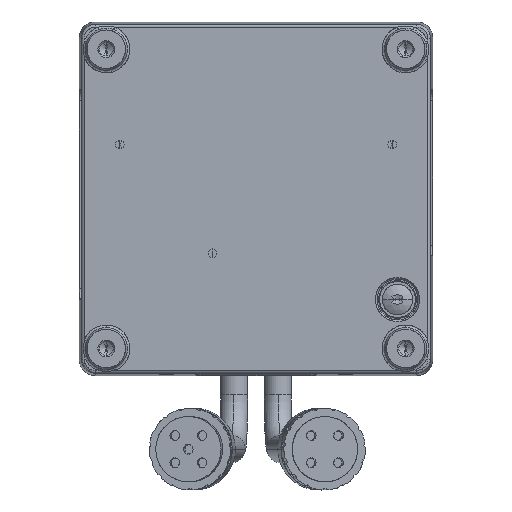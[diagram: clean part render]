
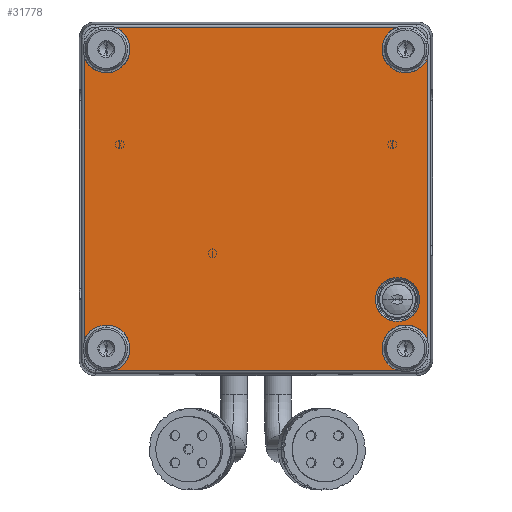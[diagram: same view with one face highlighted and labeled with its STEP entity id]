
A CAD part, front view. The second image highlights one B-rep face of the part: STEP entity #31778.
In plain terms, the highlighted planar face has unit normal (0, -1, 0).
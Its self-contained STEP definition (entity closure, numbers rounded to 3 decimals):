
#1825=PLANE('',#94680);
#2122=FACE_BOUND('',#37641,.T.);
#2123=FACE_BOUND('',#37642,.T.);
#5062=B_SPLINE_CURVE_WITH_KNOTS('',3,(#159282,#159283,#159284,#159285,#159286,
#159287,#159288,#159289,#159290,#159291),.UNSPECIFIED.,.F.,.F.,(4,2,2,2,
4),(0.,0.25,0.5,0.75,1.),.UNSPECIFIED.);
#5063=B_SPLINE_CURVE_WITH_KNOTS('',3,(#159294,#159295,#159296,#159297,#159298,
#159299,#159300,#159301,#159302,#159303),.UNSPECIFIED.,.F.,.F.,(4,2,2,2,
4),(0.,0.25,0.5,0.75,1.),.UNSPECIFIED.);
#5064=B_SPLINE_CURVE_WITH_KNOTS('',3,(#159304,#159305,#159306,#159307,#159308,
#159309,#159310,#159311,#159312,#159313),.UNSPECIFIED.,.F.,.F.,(4,2,2,2,
4),(0.,0.25,0.5,0.75,1.),.UNSPECIFIED.);
#5065=B_SPLINE_CURVE_WITH_KNOTS('',3,(#159316,#159317,#159318,#159319),
 .UNSPECIFIED.,.F.,.F.,(4,4),(0.,1.),.UNSPECIFIED.);
#5066=B_SPLINE_CURVE_WITH_KNOTS('',3,(#159323,#159324,#159325,#159326,#159327,
#159328,#159329,#159330,#159331,#159332),.UNSPECIFIED.,.F.,.F.,(4,2,2,2,
4),(0.,0.25,0.5,0.75,1.),.UNSPECIFIED.);
#5067=B_SPLINE_CURVE_WITH_KNOTS('',3,(#159336,#159337,#159338,#159339,#159340,
#159341,#159342,#159343,#159344,#159345),.UNSPECIFIED.,.F.,.F.,(4,2,2,2,
4),(0.,0.25,0.5,0.75,1.),.UNSPECIFIED.);
#5068=B_SPLINE_CURVE_WITH_KNOTS('',3,(#159349,#159350,#159351,#159352),
 .UNSPECIFIED.,.F.,.F.,(4,4),(0.,1.),.UNSPECIFIED.);
#5069=B_SPLINE_CURVE_WITH_KNOTS('',3,(#159354,#159355,#159356,#159357,#159358,
#159359,#159360,#159361,#159362,#159363),.UNSPECIFIED.,.F.,.F.,(4,2,2,2,
4),(0.,0.25,0.5,0.75,1.),.UNSPECIFIED.);
#31778=ADVANCED_FACE('',(#2122,#2123),#1825,.T.);
#37641=EDGE_LOOP('',(#58772,#58773));
#37642=EDGE_LOOP('',(#58774,#58775,#58776,#58777,#58778,#58779,#58780,#58781,
#58782,#58783));
#42549=LINE('',#159321,#48154);
#42550=LINE('',#159334,#48155);
#42551=LINE('',#159347,#48156);
#42552=LINE('',#159365,#48157);
#48154=VECTOR('',#108101,1.);
#48155=VECTOR('',#108102,1.);
#48156=VECTOR('',#108103,1.);
#48157=VECTOR('',#108104,1.);
#58772=ORIENTED_EDGE('',*,*,#84282,.T.);
#58773=ORIENTED_EDGE('',*,*,#84283,.T.);
#58774=ORIENTED_EDGE('',*,*,#84284,.T.);
#58775=ORIENTED_EDGE('',*,*,#84285,.T.);
#58776=ORIENTED_EDGE('',*,*,#84286,.T.);
#58777=ORIENTED_EDGE('',*,*,#84287,.T.);
#58778=ORIENTED_EDGE('',*,*,#84288,.T.);
#58779=ORIENTED_EDGE('',*,*,#84289,.T.);
#58780=ORIENTED_EDGE('',*,*,#84290,.T.);
#58781=ORIENTED_EDGE('',*,*,#84291,.T.);
#58782=ORIENTED_EDGE('',*,*,#84292,.T.);
#58783=ORIENTED_EDGE('',*,*,#84293,.T.);
#71528=VERTEX_POINT('',#159292);
#71529=VERTEX_POINT('',#159293);
#71530=VERTEX_POINT('',#159314);
#71531=VERTEX_POINT('',#159315);
#71532=VERTEX_POINT('',#159320);
#71533=VERTEX_POINT('',#159322);
#71534=VERTEX_POINT('',#159333);
#71535=VERTEX_POINT('',#159335);
#71536=VERTEX_POINT('',#159346);
#71537=VERTEX_POINT('',#159348);
#71538=VERTEX_POINT('',#159353);
#71539=VERTEX_POINT('',#159364);
#84282=EDGE_CURVE('',#71528,#71529,#5062,.T.);
#84283=EDGE_CURVE('',#71529,#71528,#5063,.T.);
#84284=EDGE_CURVE('',#71530,#71531,#5064,.T.);
#84285=EDGE_CURVE('',#71531,#71532,#5065,.T.);
#84286=EDGE_CURVE('',#71532,#71533,#42549,.T.);
#84287=EDGE_CURVE('',#71533,#71534,#5066,.T.);
#84288=EDGE_CURVE('',#71534,#71535,#42550,.T.);
#84289=EDGE_CURVE('',#71535,#71536,#5067,.T.);
#84290=EDGE_CURVE('',#71536,#71537,#42551,.T.);
#84291=EDGE_CURVE('',#71537,#71538,#5068,.T.);
#84292=EDGE_CURVE('',#71538,#71539,#5069,.T.);
#84293=EDGE_CURVE('',#71539,#71530,#42552,.T.);
#94680=AXIS2_PLACEMENT_3D('',#159366,#108105,#108106);
#108101=DIRECTION('',(0.,0.,1.));
#108102=DIRECTION('',(-1.,0.,0.));
#108103=DIRECTION('',(0.,0.,-1.));
#108104=DIRECTION('',(1.,0.,0.));
#108105=DIRECTION('',(0.,-1.,0.));
#108106=DIRECTION('',(1.,0.,0.));
#159282=CARTESIAN_POINT('',(26.,0.,-22.55));
#159283=CARTESIAN_POINT('',(24.883,0.,-22.55));
#159284=CARTESIAN_POINT('',(23.926,0.,-22.153));
#159285=CARTESIAN_POINT('',(22.347,0.,-20.574));
#159286=CARTESIAN_POINT('',(21.95,0.,-19.616));
#159287=CARTESIAN_POINT('',(21.95,0.,-17.384));
#159288=CARTESIAN_POINT('',(22.347,0.,-16.426));
#159289=CARTESIAN_POINT('',(23.925,0.,-14.847));
#159290=CARTESIAN_POINT('',(24.88,0.,-14.45));
#159291=CARTESIAN_POINT('',(26.,0.,-14.45));
#159292=CARTESIAN_POINT('',(26.,0.,-22.55));
#159293=CARTESIAN_POINT('',(26.,0.,-14.45));
#159294=CARTESIAN_POINT('',(26.,0.,-14.45));
#159295=CARTESIAN_POINT('',(27.117,0.,-14.45));
#159296=CARTESIAN_POINT('',(28.074,0.,-14.847));
#159297=CARTESIAN_POINT('',(29.653,0.,-16.426));
#159298=CARTESIAN_POINT('',(30.05,0.,-17.384));
#159299=CARTESIAN_POINT('',(30.05,0.,-19.616));
#159300=CARTESIAN_POINT('',(29.653,0.,-20.574));
#159301=CARTESIAN_POINT('',(28.075,0.,-22.153));
#159302=CARTESIAN_POINT('',(27.12,0.,-22.55));
#159303=CARTESIAN_POINT('',(26.,0.,-22.55));
#159304=CARTESIAN_POINT('',(26.014,0.,-31.555));
#159305=CARTESIAN_POINT('',(25.032,0.,-31.195));
#159306=CARTESIAN_POINT('',(24.278,0.,-30.559));
#159307=CARTESIAN_POINT('',(23.235,0.,-28.747));
#159308=CARTESIAN_POINT('',(23.065,0.,-27.774));
#159309=CARTESIAN_POINT('',(23.43,0.,-25.716));
#159310=CARTESIAN_POINT('',(23.925,0.,-24.862));
#159311=CARTESIAN_POINT('',(25.527,0.,-23.518));
#159312=CARTESIAN_POINT('',(26.452,0.,-23.181));
#159313=CARTESIAN_POINT('',(27.5,0.,-23.181));
#159314=CARTESIAN_POINT('',(26.014,0.,-31.555));
#159315=CARTESIAN_POINT('',(27.5,0.,-23.181));
#159316=CARTESIAN_POINT('',(27.5,0.,-23.181));
#159317=CARTESIAN_POINT('',(29.309,0.,-23.181));
#159318=CARTESIAN_POINT('',(30.93,0.,-24.31));
#159319=CARTESIAN_POINT('',(31.555,0.,-26.014));
#159320=CARTESIAN_POINT('',(31.555,0.,-26.014));
#159321=CARTESIAN_POINT('',(31.555,0.,0.));
#159322=CARTESIAN_POINT('',(31.555,0.,26.014));
#159323=CARTESIAN_POINT('',(31.555,0.,26.014));
#159324=CARTESIAN_POINT('',(31.013,0.,24.536));
#159325=CARTESIAN_POINT('',(29.969,0.,23.622));
#159326=CARTESIAN_POINT('',(26.892,0.,22.943));
#159327=CARTESIAN_POINT('',(25.561,0.,23.332));
#159328=CARTESIAN_POINT('',(23.332,0.,25.56));
#159329=CARTESIAN_POINT('',(22.944,0.,26.892));
#159330=CARTESIAN_POINT('',(23.622,0.,29.968));
#159331=CARTESIAN_POINT('',(24.53,0.,31.011));
#159332=CARTESIAN_POINT('',(26.014,0.,31.555));
#159333=CARTESIAN_POINT('',(26.014,0.,31.555));
#159334=CARTESIAN_POINT('',(0.,0.,31.555));
#159335=CARTESIAN_POINT('',(-26.014,0.,31.555));
#159336=CARTESIAN_POINT('',(-26.014,0.,31.555));
#159337=CARTESIAN_POINT('',(-24.536,0.,31.013));
#159338=CARTESIAN_POINT('',(-23.622,0.,29.969));
#159339=CARTESIAN_POINT('',(-22.943,0.,26.892));
#159340=CARTESIAN_POINT('',(-23.332,0.,25.561));
#159341=CARTESIAN_POINT('',(-25.56,0.,23.332));
#159342=CARTESIAN_POINT('',(-26.892,0.,22.944));
#159343=CARTESIAN_POINT('',(-29.968,0.,23.622));
#159344=CARTESIAN_POINT('',(-31.011,0.,24.53));
#159345=CARTESIAN_POINT('',(-31.555,0.,26.014));
#159346=CARTESIAN_POINT('',(-31.555,0.,26.014));
#159347=CARTESIAN_POINT('',(-31.555,0.,0.));
#159348=CARTESIAN_POINT('',(-31.555,0.,-26.014));
#159349=CARTESIAN_POINT('',(-31.555,0.,-26.014));
#159350=CARTESIAN_POINT('',(-30.932,0.,-24.315));
#159351=CARTESIAN_POINT('',(-29.315,0.,-23.181));
#159352=CARTESIAN_POINT('',(-27.5,0.,-23.181));
#159353=CARTESIAN_POINT('',(-27.5,0.,-23.181));
#159354=CARTESIAN_POINT('',(-27.5,0.,-23.181));
#159355=CARTESIAN_POINT('',(-26.454,0.,-23.181));
#159356=CARTESIAN_POINT('',(-25.527,0.,-23.519));
#159357=CARTESIAN_POINT('',(-23.925,0.,-24.861));
#159358=CARTESIAN_POINT('',(-23.431,0.,-25.716));
#159359=CARTESIAN_POINT('',(-23.065,0.,-27.774));
#159360=CARTESIAN_POINT('',(-23.235,0.,-28.747));
#159361=CARTESIAN_POINT('',(-24.278,0.,-30.56));
#159362=CARTESIAN_POINT('',(-25.03,0.,-31.194));
#159363=CARTESIAN_POINT('',(-26.014,0.,-31.555));
#159364=CARTESIAN_POINT('',(-26.014,0.,-31.555));
#159365=CARTESIAN_POINT('',(0.,0.,-31.555));
#159366=CARTESIAN_POINT('',(-31.555,0.,-31.555));
